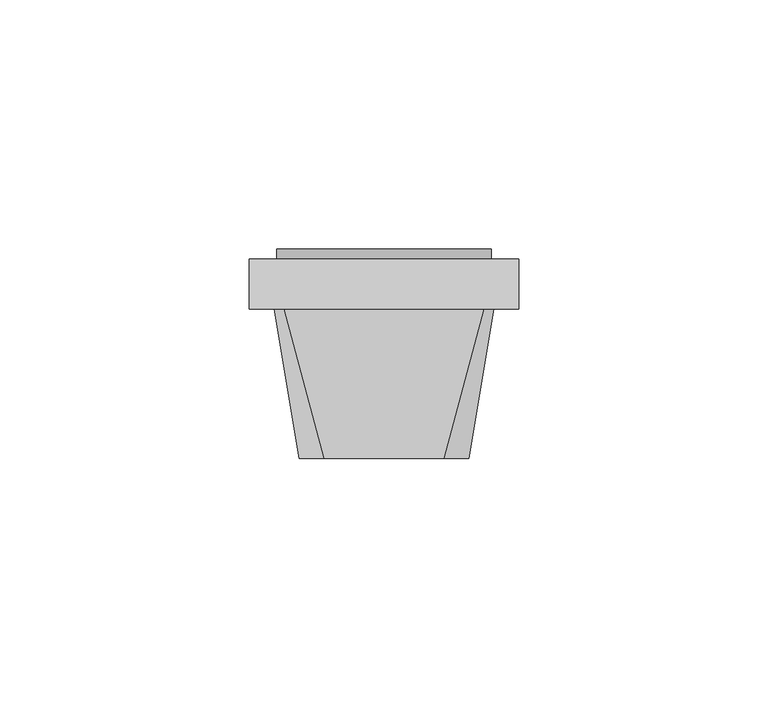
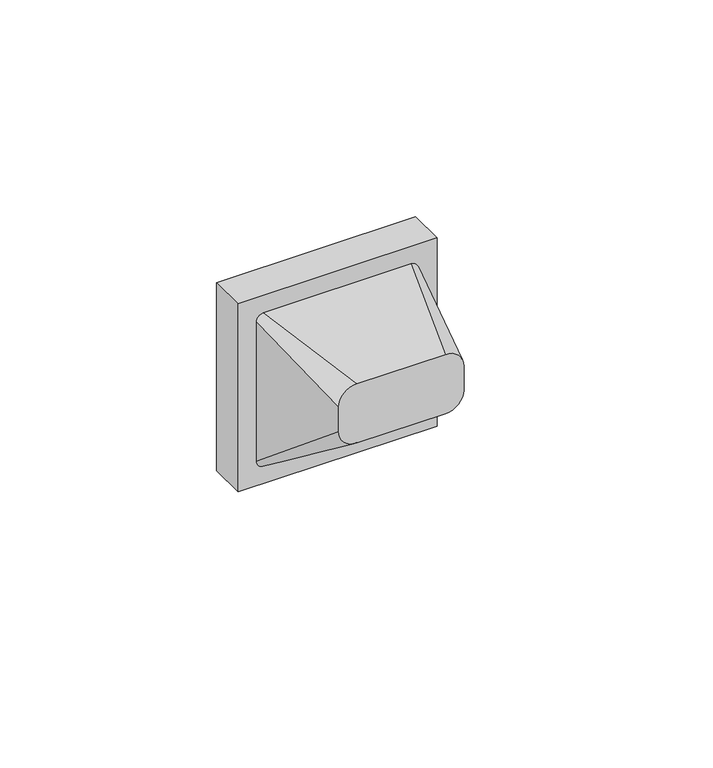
"""IFC4 building model written with IfcOpenShell, lengths in millimetres: proxy geometry, IEK_Brite_Механизм розетки 230В : 230 В PE+шт. USB A+C_РЮш11-1-БрА."""

from ifc_helpers import new_model, si_unit, point, frame, frame_2d, origin, origin_2d, place, context, project, spatial, polyline, circle_curve, ellipse_curve, trimmed, segment, composite_curve, outline, extrude, source, transform, mapped, element, save
from ifc_brep_helpers import plane_surface, cylinder_surface, revolved_surface, spline_surface, advanced_brep


def electrical_fixtures_b8f18d17(model_context):
    return source(origin(), model_context, "Body", "SolidModel", [
        advanced_brep(
        [(-12.0, -30.0, 17.0), (-17.0, -30.0, 12.0), (-17.0, -30.0, 5.0), (-12.0, -30.0, 0.0), (12.0, -30.0, 0.0), (17.0, -30.0, 5.0), (17.0, -30.0, 12.0), (12.0, -30.0, 17.0), (-20.0, 0.0, 22.0), (20.0, 0.0, 22.0), (22.0, 0.0, 20.0), (22.0, 0.0, -20.0), (20.0, 0.0, -22.0), (-20.0, 0.0, -22.0), (-22.0, 0.0, -20.0), (-22.0, 0.0, 20.0), (-11.8753617, 0.0, 0.0), (-6.3904783, 0.0, 0.0), (-3.0105286, 0.0, 0.0), (3.0105286, 0.0, 0.0), (6.3904783, 0.0, 0.0), (11.8753617, 0.0, 0.0), (-1.7917908, 0.0, 19.3280847), (-1.7917908, 0.0, 16.8280847), (0.0, 0.0, 16.8280847), (1.7917908, 0.0, 16.8280847), (1.7917908, 0.0, 19.3280847), (0.0, 0.0, 19.3280847), (-1.7917908, 0.0, -19.3280847), (0.0, 0.0, -19.3280847), (1.7917908, 0.0, -19.3280847), (1.7917908, 0.0, -16.8280847), (0.0, 0.0, -16.8280847), (-1.7917908, 0.0, -16.8280847), (0.0, -3.6435209, -19.3280847), (-1.7917908, -3.6435209, -19.3280847), (-1.7917908, -7.0526118, -16.8280847), (0.0, -7.0526118, -16.8280847), (1.7917908, -7.0526118, -16.8280847), (1.7917908, -3.6435209, -19.3280847), (-11.8753617, -13.4962918, 0.0), (-6.3904783, -13.4962918, 0.0), (-3.0105286, -13.4962918, 0.0), (3.0105286, -13.4962918, 0.0), (6.3904783, -13.4962918, 0.0), (11.8753617, -13.4962918, 0.0), (-1.7917908, -13.4962918, 19.3280847), (0.0, -13.4962918, 19.3280847), (1.7917908, -13.4962918, 19.3280847), (1.7917908, -13.4962918, 16.8280847), (0.0, -13.4962918, 16.8280847), (-1.7917908, -13.4962918, 16.8280847)],
        [
            (0, 1, circle_curve(frame((-12.0, -30.0, 12.0), z_axis=(0.0, -1.0, 0.0), x_axis=(1.0, 0.0, 0.0)), 5.0)),
            (1, 2),
            (2, 3, circle_curve(frame((-12.0, -30.0, 5.0), z_axis=(0.0, -1.0, 0.0), x_axis=(1.0, 0.0, 0.0)), 5.0)),
            (3, 4),
            (4, 5, circle_curve(frame((12.0, -30.0, 5.0), z_axis=(0.0, -1.0, 0.0), x_axis=(1.0, 0.0, 0.0)), 5.0)),
            (5, 6),
            (6, 7, circle_curve(frame((12.0, -30.0, 12.0), z_axis=(0.0, -1.0, 0.0), x_axis=(1.0, 0.0, 0.0)), 5.0)),
            (7, 0),
            (8, 9),
            (9, 10, circle_curve(frame((20.0, 0.0, 20.0), z_axis=(0.0, 1.0, 0.0), x_axis=(1.0, 0.0, 0.0)), 2.0)),
            (10, 11),
            (11, 12, circle_curve(frame((20.0, 0.0, -20.0), z_axis=(0.0, 1.0, 0.0), x_axis=(1.0, 0.0, 0.0)), 2.0)),
            (12, 13),
            (13, 14, circle_curve(frame((-20.0, 0.0, -20.0), z_axis=(0.0, 1.0, 0.0), x_axis=(1.0, 0.0, 0.0)), 2.0)),
            (14, 15),
            (15, 8, circle_curve(frame((-20.0, 0.0, 20.0), z_axis=(0.0, 1.0, 0.0), x_axis=(1.0, 0.0, 0.0)), 2.0)),
            (16, 17, circle_curve(frame((-9.13292, 0.0, 0.0), z_axis=(0.0, -1.0, 0.0), x_axis=(1.0, 0.0, 0.0)), 2.7424417)),
            (17, 16, circle_curve(frame((-9.13292, 0.0, 0.0), z_axis=(0.0, -1.0, 0.0), x_axis=(1.0, 0.0, 0.0)), 2.7424417)),
            (18, 19, circle_curve(frame((0.0, 0.0, 0.0), z_axis=(0.0, -1.0, 0.0), x_axis=(1.0, 0.0, 0.0)), 3.0105286)),
            (19, 18, circle_curve(frame((0.0, 0.0, 0.0), z_axis=(0.0, -1.0, 0.0), x_axis=(1.0, 0.0, 0.0)), 3.0105286)),
            (20, 21, circle_curve(frame((9.13292, 0.0, 0.0), z_axis=(0.0, -1.0, 0.0), x_axis=(1.0, 0.0, 0.0)), 2.7424417)),
            (21, 20, circle_curve(frame((9.13292, 0.0, 0.0), z_axis=(0.0, -1.0, 0.0), x_axis=(1.0, 0.0, 0.0)), 2.7424417)),
            (22, 23),
            (23, 24),
            (24, 25),
            (25, 26),
            (26, 27),
            (27, 22),
            (28, 29),
            (29, 30),
            (30, 31),
            (31, 32),
            (32, 33),
            (33, 28),
            (7, 9),
            (8, 0),
            (6, 10),
            (5, 11),
            (4, 12),
            (3, 13),
            (34, 35),
            (35, 36),
            (36, 37),
            (37, 38),
            (38, 39),
            (39, 34),
            (2, 14),
            (1, 15),
            (40, 41, circle_curve(frame((-9.13292, -13.4962918, 0.0), z_axis=(0.0, 1.0, 0.0), x_axis=(1.0, 0.0, 0.0)), 2.7424417)),
            (41, 40, circle_curve(frame((-9.13292, -13.4962918, 0.0), z_axis=(0.0, 1.0, 0.0), x_axis=(1.0, 0.0, 0.0)), 2.7424417)),
            (42, 43, circle_curve(frame((0.0, -13.4962918, 0.0), z_axis=(0.0, 1.0, 0.0), x_axis=(1.0, 0.0, 0.0)), 3.0105286)),
            (43, 42, circle_curve(frame((0.0, -13.4962918, 0.0), z_axis=(0.0, 1.0, 0.0), x_axis=(1.0, 0.0, 0.0)), 3.0105286)),
            (44, 45, circle_curve(frame((9.13292, -13.4962918, 0.0), z_axis=(0.0, 1.0, 0.0), x_axis=(1.0, 0.0, 0.0)), 2.7424417)),
            (45, 44, circle_curve(frame((9.13292, -13.4962918, 0.0), z_axis=(0.0, 1.0, 0.0), x_axis=(1.0, 0.0, 0.0)), 2.7424417)),
            (46, 47),
            (47, 48),
            (48, 49),
            (49, 50),
            (50, 51),
            (51, 46),
            (41, 17),
            (16, 40),
            (43, 19),
            (18, 42),
            (45, 21),
            (20, 44),
            (51, 23),
            (22, 46),
            (50, 24),
            (49, 25),
            (48, 26),
            (47, 27),
            (28, 35),
            (34, 29),
            (39, 30),
            (38, 31),
            (37, 32),
            (36, 33),
        ],
        [
            plane_surface(frame((0.0, -30.0, 8.5), z_axis=(0.0, -1.0, 0.0), x_axis=(-1.0, 0.0, 0.0))),
            plane_surface(frame((0.0, 0.0, 0.0), z_axis=(0.0, 1.0, 0.0), x_axis=(-1.0, 0.0, 0.0))),
            plane_surface(frame((0.0, 0.0, 22.0), z_axis=(0.0, -0.16439898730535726, 0.9863939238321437), x_axis=(-1.0, 0.0, 0.0))),
            spline_surface(2, 1, [[(22.0, 0.0, 20.0), (17.0, -30.0, 12.0)], [(22.0, 0.0, 22.0), (17.0, -30.0, 17.0)], [(20.0, 0.0, 22.0), (12.0, -30.0, 17.0)]], [3, 3], [2, 2], [0.0, 1.0], [0.0, 1.0], weights=[[1.0, 1.0], [0.7071067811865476, 0.7071067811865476], [1.0, 1.0]]),
            plane_surface(frame((22.0, 0.0, 0.0), z_axis=(0.9863939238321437, -0.1643989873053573, 0.0), x_axis=(0.0, 0.0, 1.0))),
            spline_surface(2, 1, [[(20.0, 0.0, -22.0), (12.0, -30.0, 0.0)], [(22.0, 0.0, -22.0), (17.0, -30.0, 0.0)], [(22.0, 0.0, -20.0), (17.0, -30.0, 5.0)]], [3, 3], [2, 2], [0.0, 1.0], [0.0, 1.0], weights=[[1.0, 1.0], [0.7071067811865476, 0.7071067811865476], [1.0, 1.0]]),
            plane_surface(frame((0.0, 0.0, -22.0), z_axis=(0.0, -0.591363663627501, -0.8064049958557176), x_axis=(1.0, 0.0, 0.0))),
            spline_surface(2, 1, [[(-22.0, 0.0, -20.0), (-17.0, -30.0, 5.0)], [(-22.0, 0.0, -22.0), (-17.0, -30.0, 0.0)], [(-20.0, 0.0, -22.0), (-12.0, -30.0, 0.0)]], [3, 3], [2, 2], [0.0, 1.0], [0.0, 1.0], weights=[[1.0, 1.0], [0.7071067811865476, 0.7071067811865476], [1.0, 1.0]]),
            plane_surface(frame((-22.0, 0.0, 0.0), z_axis=(-0.9863939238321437, -0.1643989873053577, 0.0), x_axis=(0.0, 0.0, -1.0))),
            spline_surface(2, 1, [[(-20.0, 0.0, 22.0), (-12.0, -30.0, 17.0)], [(-22.0, 0.0, 22.0), (-17.0, -30.0, 17.0)], [(-22.0, 0.0, 20.0), (-17.0, -30.0, 12.0)]], [3, 3], [2, 2], [0.0, 1.0], [0.0, 1.0], weights=[[1.0, 1.0], [0.7071067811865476, 0.7071067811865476], [1.0, 1.0]]),
            plane_surface(frame((-6.3904783, -13.4962918, 0.0), z_axis=(0.0, 1.0, 0.0), x_axis=(0.0, 0.0, 1.0))),
            revolved_surface(polyline([(-6.3904783, -13.4962918, 0.0), (-6.3904783, 0.0, 0.0)]), (-9.13292, 0.0, 0.0), (0.0, -1.0, 0.0)),
            revolved_surface(polyline([(3.0105286, -13.4962918, 0.0), (3.0105286, 0.0, 0.0)]), (0.0, -2.0, 0.0), (0.0, -1.0, 0.0)),
            revolved_surface(polyline([(11.875361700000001, -13.4962918, 0.0), (11.875361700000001, 0.0, 0.0)]), (9.13292, -2.0, 0.0), (0.0, -1.0, 0.0)),
            plane_surface(frame((-1.7917908, -13.4962918, 19.3280847), z_axis=(1.0, 0.0, 0.0), x_axis=(0.0, 1.0, 0.0))),
            plane_surface(frame((-1.7917908, -13.4962918, 16.8280847), z_axis=(0.0, 0.0, 1.0), x_axis=(0.0, 1.0, 0.0))),
            plane_surface(frame((0.0, -13.4962918, 16.8280847), z_axis=(0.0, 0.0, 1.0), x_axis=(0.0, 1.0, 0.0))),
            plane_surface(frame((1.7917908, -13.4962918, 16.8280847), z_axis=(-1.0, 0.0, 0.0), x_axis=(0.0, 1.0, 0.0))),
            plane_surface(frame((1.7917908, -13.4962918, 19.3280847), z_axis=(0.0, 0.0, -1.0), x_axis=(0.0, 1.0, 0.0))),
            plane_surface(frame((0.0, -13.4962918, 19.3280847), z_axis=(0.0, 0.0, -1.0), x_axis=(0.0, 1.0, 0.0))),
            plane_surface(frame((-1.7917908, -13.4962918, -19.3280847), z_axis=(0.0, 0.0, 1.0), x_axis=(0.0, 1.0, 0.0))),
            plane_surface(frame((0.0, -13.4962918, -19.3280847), z_axis=(0.0, 0.0, 1.0), x_axis=(0.0, 1.0, 0.0))),
            plane_surface(frame((1.7917908, -13.4962918, -19.3280847), z_axis=(-1.0, 0.0, 0.0), x_axis=(0.0, 1.0, 0.0))),
            plane_surface(frame((1.7917908, -13.4962918, -16.8280847), z_axis=(0.0, 0.0, -1.0), x_axis=(0.0, 1.0, 0.0))),
            plane_surface(frame((0.0, -13.4962918, -16.8280847), z_axis=(0.0, 0.0, -1.0), x_axis=(0.0, 1.0, 0.0))),
            plane_surface(frame((-1.7917908, -13.4962918, -16.8280847), z_axis=(1.0, 0.0, 0.0), x_axis=(0.0, 1.0, 0.0))),
        ],
        [
            (0, [[1, 2, 3, 4, 5, 6, 7, 8]]),
            (1, [[9, 10, 11, 12, 13, 14, 15, 16], [17, 18], [19, 20], [21, 22], [23, 24, 25, 26, 27, 28], [29, 30, 31, 32, 33, 34]]),
            (2, [[-8, 35, -9, 36]]),
            (3, [[-7, 37, -10, -35]]),
            (4, [[-6, 38, -11, -37]]),
            (5, [[-5, 39, -12, -38]]),
            (6, [[-4, 40, -13, -39], [41, 42, 43, 44, 45, 46]]),
            (7, [[-3, 47, -14, -40]]),
            (8, [[-2, 48, -15, -47]]),
            (9, [[-1, -36, -16, -48]]),
            (10, [[49, 50]]),
            (10, [[51, 52]]),
            (10, [[53, 54]]),
            (10, [[55, 56, 57, 58, 59, 60]]),
            (11, [[-50, 61, -17, 62]]),
            (11, [[-49, -62, -18, -61]]),
            (12, [[-52, 63, -19, 64]]),
            (12, [[-51, -64, -20, -63]]),
            (13, [[-54, 65, -21, 66]]),
            (13, [[-53, -66, -22, -65]]),
            (14, [[-60, 67, -23, 68]]),
            (15, [[-59, 69, -24, -67]]),
            (16, [[-58, 70, -25, -69]]),
            (17, [[-57, 71, -26, -70]]),
            (18, [[-56, 72, -27, -71]]),
            (19, [[-55, -68, -28, -72]]),
            (20, [[73, -41, 74, -29]]),
            (21, [[-74, -46, 75, -30]]),
            (22, [[-75, -45, 76, -31]]),
            (23, [[-76, -44, 77, -32]]),
            (24, [[-77, -43, 78, -33]]),
            (25, [[-73, -34, -78, -42]]),
        ],
    ),
        advanced_brep(
        [(20.0, 0.0, 0.0), (20.0, 10.0, 0.0), (-20.0, 10.0, 0.0), (-20.0, 0.0, 0.0), (-27.0, 10.0, 27.0), (27.0, 10.0, 27.0), (27.0, 10.0, -27.0), (-27.0, 10.0, -27.0), (21.930348, 10.0, 11.4595346), (26.1729886, 10.0, 15.7021753), (16.2734937, 10.0, 25.6016703), (12.030853, 10.0, 21.3590296), (-15.5519212, 10.0, 19.9592818), (-17.6732415, 10.0, 22.0806021), (-22.6519205, 10.0, 17.1019231), (-20.5306001, 10.0, 14.9806028), (21.5, 10.0, 0.0), (-21.5, 10.0, 0.0), (-27.0, 0.0, 27.0), (-27.0, 0.0, -27.0), (27.0, 0.0, -27.0), (27.0, 0.0, 27.0), (26.1729886, 1.865818, 15.7021753), (21.930348, 1.865818, 11.4595346), (12.030853, 1.865818, 21.3590296), (16.2734937, 1.865818, 25.6016703), (-17.6732415, 1.865818, 22.0806021), (-15.5519212, 1.865818, 19.9592818), (-20.5306001, 1.865818, 14.9806028), (-22.6519205, 1.865818, 17.1019231), (-21.5, 12.0, 0.0), (21.5, 12.0, 0.0), (-20.0, 12.0, 0.0), (20.0, 12.0, 0.0)],
        [
            (0, 1),
            (1, 2, circle_curve(frame((0.0, 10.0, 0.0), z_axis=(0.0, 1.0, 0.0), x_axis=(1.0, 0.0, 0.0)), 20.0)),
            (2, 3),
            (3, 0, circle_curve(frame((0.0, 0.0, 0.0), z_axis=(0.0, -1.0, 0.0), x_axis=(1.0, 0.0, 0.0)), 20.0)),
            (0, 3, circle_curve(frame((0.0, 0.0, 0.0), z_axis=(0.0, -1.0, 0.0), x_axis=(1.0, 0.0, 0.0)), 20.0)),
            (2, 1, circle_curve(frame((0.0, 10.0, 0.0), z_axis=(0.0, 1.0, 0.0), x_axis=(1.0, 0.0, 0.0)), 20.0)),
            (4, 5),
            (5, 6),
            (6, 7),
            (7, 4),
            (8, 9),
            (9, 10),
            (10, 11),
            (11, 8),
            (12, 13, circle_curve(frame((-16.6125813, 10.0, 21.0199419), z_axis=(0.0, -1.0, 0.0), x_axis=(0.7071067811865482, 0.0, -0.7071067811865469)), 1.5)),
            (13, 14),
            (14, 15, circle_curve(frame((-21.5912603, 10.0, 16.041263), z_axis=(0.0, -1.0, 0.0), x_axis=(0.7071067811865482, 0.0, -0.7071067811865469)), 1.5)),
            (15, 12),
            (16, 17, circle_curve(frame((0.0, 10.0, 0.0), z_axis=(0.0, -1.0, 0.0), x_axis=(-1.0, 0.0, 0.0)), 21.5)),
            (17, 16, circle_curve(frame((0.0, 10.0, 0.0), z_axis=(0.0, -1.0, 0.0), x_axis=(-1.0, 0.0, 0.0)), 21.5)),
            (18, 19),
            (19, 20),
            (20, 21),
            (21, 18),
            (7, 19),
            (18, 4),
            (6, 20),
            (5, 21),
            (22, 23),
            (23, 24),
            (24, 25),
            (25, 22),
            (22, 9),
            (8, 23),
            (11, 24),
            (10, 25),
            (26, 27, circle_curve(frame((-16.6125813, 1.865818, 21.0199419), z_axis=(0.0, 1.0, 0.0), x_axis=(0.7071067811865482, 0.0, -0.7071067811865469)), 1.5)),
            (27, 28),
            (28, 29, circle_curve(frame((-21.5912603, 1.865818, 16.041263), z_axis=(0.0, 1.0, 0.0), x_axis=(0.7071067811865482, 0.0, -0.7071067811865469)), 1.5)),
            (29, 26),
            (26, 13),
            (12, 27),
            (15, 28),
            (14, 29),
            (30, 31, circle_curve(frame((0.0, 12.0, 0.0), z_axis=(0.0, 1.0, 0.0), x_axis=(-1.0, 0.0, 0.0)), 21.5)),
            (31, 30, circle_curve(frame((0.0, 12.0, 0.0), z_axis=(0.0, 1.0, 0.0), x_axis=(-1.0, 0.0, 0.0)), 21.5)),
            (32, 33, circle_curve(frame((0.0, 12.0, 0.0), z_axis=(0.0, -1.0, 0.0), x_axis=(-1.0, 0.0, 0.0)), 20.0)),
            (33, 32, circle_curve(frame((0.0, 12.0, 0.0), z_axis=(0.0, -1.0, 0.0), x_axis=(-1.0, 0.0, 0.0)), 20.0)),
            (32, 2),
            (1, 33),
            (30, 17),
            (16, 31),
        ],
        [
            revolved_surface(polyline([(20.0, 0.0, 0.0), (20.0, 10.0, 0.0)]), (0.0, 10.0, 0.0), (0.0, -1.0, 0.0)),
            plane_surface(frame((-27.0, 10.0, -27.0), z_axis=(0.0, 1.0, 0.0), x_axis=(0.0, 0.0, 1.0))),
            plane_surface(frame((-27.0, 0.0, -27.0), z_axis=(0.0, -1.0, 0.0), x_axis=(0.0, 0.0, -1.0))),
            plane_surface(frame((-27.0, 0.0, 27.0), z_axis=(-1.0, 0.0, 0.0), x_axis=(0.0, 1.0, 0.0))),
            plane_surface(frame((-27.0, 0.0, -27.0), z_axis=(0.0, 0.0, -1.0), x_axis=(0.0, 1.0, 0.0))),
            plane_surface(frame((27.0, 0.0, -27.0), z_axis=(1.0, 0.0, 0.0), x_axis=(0.0, 1.0, 0.0))),
            plane_surface(frame((27.0, 0.0, 27.0), z_axis=(0.0, 0.0, 1.0), x_axis=(0.0, 1.0, 0.0))),
            plane_surface(frame((26.1729886, 1.865818, 15.7021753), z_axis=(0.0, 1.0, 0.0), x_axis=(0.7071067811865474, 0.0, 0.7071067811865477))),
            plane_surface(frame((26.1729886, 10.0, 15.7021753), z_axis=(-0.7071067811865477, 0.0, 0.7071067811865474), x_axis=(0.0, -1.0, 0.0))),
            plane_surface(frame((21.930348, 10.0, 11.4595346), z_axis=(0.7071067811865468, 0.0, 0.7071067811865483), x_axis=(0.0, -1.0, 0.0))),
            plane_surface(frame((12.030853, 10.0, 21.3590296), z_axis=(0.7071067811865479, 0.0, -0.7071067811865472), x_axis=(0.0, -1.0, 0.0))),
            plane_surface(frame((16.2734937, 10.0, 25.6016703), z_axis=(-0.7071067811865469, 0.0, -0.7071067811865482), x_axis=(0.0, -1.0, 0.0))),
            plane_surface(frame((-15.5519212, 1.865818, 19.9592818), z_axis=(0.0, 1.0, 0.0), x_axis=(0.7071067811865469, 0.0, 0.7071067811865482))),
            revolved_surface(polyline([(-15.551921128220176, 10.0, 19.95928172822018), (-15.551921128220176, 1.865818, 19.95928172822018)]), (-16.6125813, 1.865818, 21.0199419), (0.0, 1.0, 0.0)),
            plane_surface(frame((-15.5519212, 10.0, 19.9592818), z_axis=(-0.707106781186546, 0.0, 0.707106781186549), x_axis=(0.0, -1.0, 0.0))),
            revolved_surface(polyline([(-20.530600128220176, 10.0, 14.98060282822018), (-20.530600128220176, 1.865818, 14.98060282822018)]), (-21.5912603, 1.865818, 16.041263), (0.0, 1.0, 0.0)),
            plane_surface(frame((-22.6519205, 10.0, 17.1019231), z_axis=(0.7071067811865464, 0.0, -0.7071067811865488), x_axis=(0.0, -1.0, 0.0))),
            plane_surface(frame((-20.0, 12.0, 0.0), z_axis=(0.0, 1.0, 0.0), x_axis=(0.0, 0.0, -1.0))),
            revolved_surface(polyline([(-20.0, 10.0, 0.0), (-20.0, 12.0, 0.0)]), (0.0, 10.0, 0.0), (0.0, -1.0, 0.0)),
            cylinder_surface(frame((0.0, 10.0, 0.0), z_axis=(0.0, 1.0, 0.0), x_axis=(-1.0, 0.0, 0.0)), 21.5),
        ],
        [
            (0, [[1, 2, 3, 4]]),
            (0, [[-1, 5, -3, 6]]),
            (1, [[7, 8, 9, 10], [11, 12, 13, 14], [15, 16, 17, 18], [19, 20]]),
            (2, [[21, 22, 23, 24], [-4, -5]]),
            (3, [[-10, 25, -21, 26]]),
            (4, [[-9, 27, -22, -25]]),
            (5, [[-8, 28, -23, -27]]),
            (6, [[-7, -26, -24, -28]]),
            (7, [[29, 30, 31, 32]]),
            (8, [[-29, 33, -11, 34]]),
            (9, [[-30, -34, -14, 35]]),
            (10, [[-31, -35, -13, 36]]),
            (11, [[-32, -36, -12, -33]]),
            (12, [[37, 38, 39, 40]]),
            (13, [[-37, 41, -15, 42]]),
            (14, [[-38, -42, -18, 43]]),
            (15, [[-39, -43, -17, 44]]),
            (16, [[-40, -44, -16, -41]]),
            (17, [[45, 46], [47, 48]]),
            (18, [[-47, 49, -2, 50]]),
            (18, [[-48, -50, -6, -49]]),
            (19, [[-45, 51, -19, 52]]),
            (19, [[-46, -52, -20, -51]]),
        ],
    ),
        extrude(outline(polyline([(0.0, -0.9893176), (0.0, 0.0), (6.432744, 0.0), (6.432744, -0.9893176), (0.0, -0.9893176)])), frame((-21.3199344, 8.332744, 15.7523145), z_axis=(0.7071067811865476, 0.0, 0.7071067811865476), x_axis=(0.0, -1.0, 0.0)), (0.0, 0.0, 1.0), 7.0658374),
        extrude(outline(polyline([(0.0, -1.1531456), (0.0, 0.0), (6.432744, 0.0), (6.432744, -1.1531456), (0.0, -1.1531456)])), frame((21.2404576, 8.332744, 14.5465446), z_axis=(0.7071067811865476, 0.0, 0.7071067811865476), x_axis=(0.0, -1.0, 0.0)), (0.0, 0.0, 1.0), 0.9632194),
        extrude(outline(polyline([(0.0, -1.1531455), (0.0, 0.0), (6.432744, 0.0), (6.432744, -1.1531455), (0.0, -1.1531455)])), frame((19.4528563, 8.332744, 16.3341459), z_axis=(0.7071067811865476, 0.0, 0.7071067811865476), x_axis=(0.0, -1.0, 0.0)), (0.0, 0.0, 1.0), 0.9632194),
        extrude(outline(polyline([(0.0, -1.1531456), (0.0, 0.0), (6.432744, 0.0), (6.432744, -1.1531456), (0.0, -1.1531456)])), frame((17.7049237, 8.332744, 18.0820785), z_axis=(0.7071067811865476, 0.0, 0.7071067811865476), x_axis=(0.0, -1.0, 0.0)), (0.0, 0.0, 1.0), 0.9632194),
        extrude(outline(polyline([(0.0, -1.1531455), (0.0, 0.0), (6.432744, 0.0), (6.432744, -1.1531455), (0.0, -1.1531455)])), frame((15.9173224, 8.332744, 19.8696798), z_axis=(0.7071067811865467, 0.0, 0.7071067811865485), x_axis=(0.0, -1.0, 0.0)), (0.0, 0.0, 1.0), 0.9632194),
        extrude(outline(polyline([(0.0, -11.3487944), (0.0, 0.0), (6.7835378, 0.0), (6.7835378, -11.3487944), (0.0, -11.3487944)])), frame((14.0179934, 1.865818, 21.2650885), z_axis=(0.707106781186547, 0.0, 0.7071067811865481), x_axis=(0.0, 1.0, 0.0)), (0.0, 0.0, 1.0), 1.1632949),
        extrude(outline(composite_curve([segment(trimmed(circle_curve(frame_2d((6.4251956, 19.2322549)), 1.2539127), [point((7.6710794, 19.3739261))], [point((5.5330873, 18.3510967))], False, "CARTESIAN"), True, "CONTINUOUS"), segment(polyline([(5.5330873, 18.3510967), (-1.7, 17.5095674), (-1.7, 18.7042816), (7.6710794, 19.3739261)]), True, "CONTINUOUS")], self_intersect=False)), frame((-1.5, 0.0, 0.0), z_axis=(1.0, 0.0, 0.0), x_axis=(0.0, 1.0, 0.0)), (0.0, 0.0, 1.0), 3.0),
        extrude(outline(composite_curve([segment(polyline([(7.6710794, -19.3739261), (-1.7, -18.7042816), (-1.7, -17.5095674), (5.5330873, -18.3510967)]), True, "CONTINUOUS"), segment(trimmed(circle_curve(frame_2d((6.4251956, -19.2322549)), 1.2539127), [point((5.5330873, -18.3510967))], [point((7.6710794, -19.3739261))], False, "CARTESIAN"), True, "CONTINUOUS")], self_intersect=False)), frame((-1.5, 0.0, 0.0), z_axis=(1.0, 0.0, 0.0), x_axis=(0.0, 1.0, 0.0)), (0.0, 0.0, 1.0), 3.0),
        advanced_brep(
        [(0.0, 0.078125, -2.8986917), (0.0, 0.078125, 2.8986917), (0.0, 0.8649081, 0.0), (0.0, -1.7, -2.8986917), (0.0, -1.7, 2.8986917), (0.0, -1.7, 0.0)],
        [
            (0, 1, circle_curve(frame((0.0, 0.078125, 0.0), z_axis=(0.0, 1.0, 0.0), x_axis=(0.0, 0.0, 1.0)), 2.8986917)),
            (1, 2, ellipse_curve(frame((0.0, 0.078125, 0.15625), z_axis=(-1.0, 0.0, 0.0), x_axis=(0.0, 0.0, 1.0)), 2.7424417, 0.7880633)),
            (2, 0, ellipse_curve(frame((0.0, 0.078125, -0.15625), z_axis=(-1.0, 0.0, 0.0), x_axis=(0.0, 0.0, -1.0)), 2.7424417, 0.7880633)),
            (1, 0, circle_curve(frame((0.0, 0.078125, 0.0), z_axis=(0.0, 1.0, 0.0), x_axis=(0.0, 0.0, 1.0)), 2.8986917)),
            (3, 4, circle_curve(frame((0.0, -1.7, 0.0), z_axis=(0.0, 1.0, 0.0), x_axis=(0.0, 0.0, 1.0)), 2.8986917)),
            (4, 1),
            (0, 3),
            (4, 3, circle_curve(frame((0.0, -1.7, 0.0), z_axis=(0.0, 1.0, 0.0), x_axis=(0.0, 0.0, 1.0)), 2.8986917)),
            (5, 4),
            (3, 5),
        ],
        [
            revolved_surface(trimmed(ellipse_curve(frame((0.0, 0.078125, 0.15625), z_axis=(1.0, 0.0, 0.0), x_axis=(0.0, 0.0, 1.0)), 2.7424417, 0.7880633), [point((0.0, 0.8649081, 0.0))], [point((0.0, 0.078125, 2.8986917))], True, "CARTESIAN"), (0.0, -3.0228134, 0.0), (0.0, -1.0, 0.0)),
            cylinder_surface(frame((0.0, -3.0228134, 0.0), z_axis=(0.0, -1.0, 0.0), x_axis=(0.0, 0.0, 1.0)), 2.8986917),
            plane_surface(frame((0.0, -1.7, 0.0), z_axis=(0.0, -1.0, 0.0), x_axis=(0.0, 0.0, 1.0))),
        ],
        [
            (0, [[1, 2, 3]]),
            (0, [[4, -3, -2]]),
            (1, [[5, 6, -1, 7]]),
            (1, [[8, -7, -4, -6]]),
            (2, [[9, -5, 10]]),
            (2, [[-10, -8, -9]]),
        ],
    ),
        extrude(outline(composite_curve([segment(polyline([(3.2980592, -16.488464), (11.3194768, -16.488464)]), True, "CONTINUOUS"), segment(trimmed(circle_curve(origin_2d(), 20.0), [point((11.3194768, -16.488464))], [point((3.2980592, -19.7261959))], False, "CARTESIAN"), True, "CONTINUOUS"), segment(polyline([(3.2980592, -19.7261959), (3.2980592, -16.488464)]), True, "CONTINUOUS")], self_intersect=False)), frame((0.0, 0.0, 0.0), z_axis=(0.0, 1.0, 0.0), x_axis=(0.0, 0.0, 1.0)), (0.0, 0.0, 1.0), 8.0),
        extrude(outline(composite_curve([segment(polyline([(-3.2980592, -16.488464), (-3.2980592, -19.7261959)]), True, "CONTINUOUS"), segment(trimmed(circle_curve(origin_2d(), 20.0), [point((-3.2980592, -19.7261959))], [point((-11.3194768, -16.488464))], False, "CARTESIAN"), True, "CONTINUOUS"), segment(polyline([(-11.3194768, -16.488464), (-3.2980592, -16.488464)]), True, "CONTINUOUS")], self_intersect=False)), frame((0.0, 0.0, 0.0), z_axis=(0.0, 1.0, 0.0), x_axis=(0.0, 0.0, 1.0)), (0.0, 0.0, 1.0), 8.0),
        extrude(outline(composite_curve([segment(polyline([(3.2980592, 16.488464), (3.2980592, 19.7261959)]), True, "CONTINUOUS"), segment(trimmed(circle_curve(origin_2d(), 20.0), [point((3.2980592, 19.7261959))], [point((11.3194768, 16.488464))], False, "CARTESIAN"), True, "CONTINUOUS"), segment(polyline([(11.3194768, 16.488464), (3.2980592, 16.488464)]), True, "CONTINUOUS")], self_intersect=False)), frame((0.0, 0.0, 0.0), z_axis=(0.0, 1.0, 0.0), x_axis=(0.0, 0.0, 1.0)), (0.0, 0.0, 1.0), 8.0),
        extrude(outline(composite_curve([segment(polyline([(-3.2980592, 16.488464), (-11.3194768, 16.488464)]), True, "CONTINUOUS"), segment(trimmed(circle_curve(origin_2d(), 20.0), [point((-11.3194768, 16.488464))], [point((-3.2980592, 19.7261959))], False, "CARTESIAN"), True, "CONTINUOUS"), segment(polyline([(-3.2980592, 19.7261959), (-3.2980592, 16.488464)]), True, "CONTINUOUS")], self_intersect=False)), frame((0.0, 0.0, 0.0), z_axis=(0.0, 1.0, 0.0), x_axis=(0.0, 0.0, 1.0)), (0.0, 0.0, 1.0), 8.0),
    ])


if __name__ == "__main__":
    model = new_model("IFC4")
    model_context = context("Model", 3, world=origin())
    ifc_project = project(units=[si_unit("LENGTHUNIT", "METRE", prefix="MILLI")], contexts=[model_context])
    site = spatial("IfcSite", under=ifc_project)
    building = spatial("IfcBuilding", under=site)
    placement = place(None, origin())
    electrical_fixtures_shape = electrical_fixtures_b8f18d17(model_context)
    element("IfcBuildingElementProxy", 1, Name="IEK_Brite_Механизм розетки 230В : 230 В PE+шт. USB A+C_РЮш11-1-БрА", ObjectType="IEK_Brite_Механизм розетки 230В : 230 В PE+шт. USB A+C_РЮш11-1-БрА", at=placement, inside=building, context=model_context, shape_type="MappedRepresentation", body=[
        mapped(electrical_fixtures_shape, transform((0.0, 0.0, 0.0), x_axis=(1.0, 0.0, 0.0), y_axis=(0.0, 1.0, 0.0), z_axis=(0.0, 0.0, 1.0))),
    ])
    save(model, "model.ifc")
